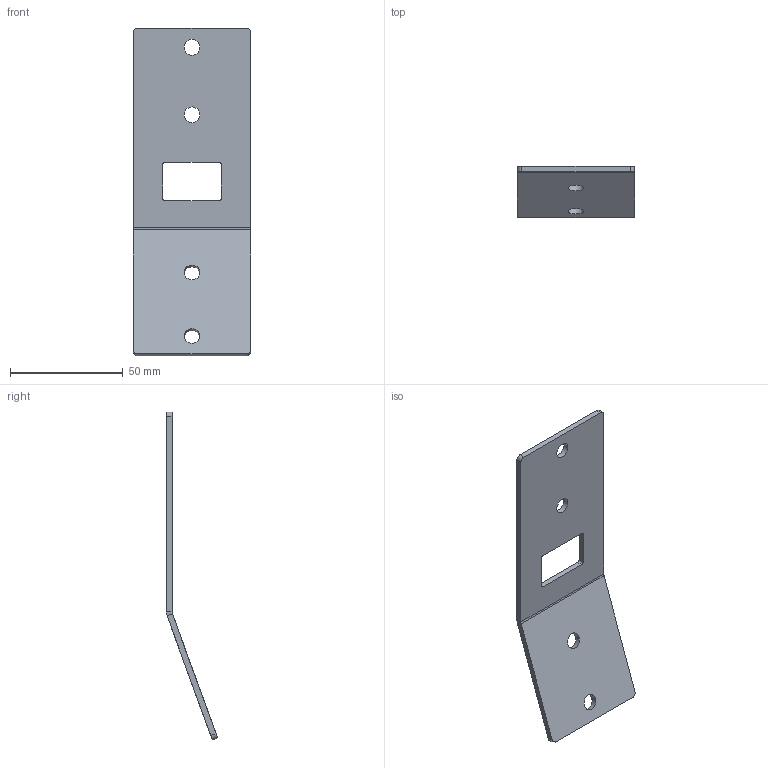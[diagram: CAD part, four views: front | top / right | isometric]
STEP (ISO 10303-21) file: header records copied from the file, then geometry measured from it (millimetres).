
FILE_DESCRIPTION(/* description */ (''),/* implementation_level */ '2;1');
FILE_NAME(/* name */ 'LB VS 20.stp',/* time_stamp */ '2024-10-17T13:47:32+02:00',/* author */ ('d.streicher'),/* organization */ (''),/* preprocessor_version */ 'ST-DEVELOPER v20',/* originating_system */ 'Autodesk Inventor 2025',/* authorisation */ '');
FILE_SCHEMA (('AUTOMOTIVE_DESIGN { 1 0 10303 214 3 1 1 }'));
Length unit declared in the file: millimetre
Products named in the file (1): LB VS nlack 20°
Bounding box: 52 x 22.7 x 145.41 mm (x, y, z)
Volume: 17814.7 mm3; surface area: 15676.5 mm2
Topology: 1 solids, 1 shells, 30 faces, 76 edges, 48 vertices
Faces by surface type: plane 16, cylinder 14
Full cylindrical faces by diameter (mm): 7 x4
Entity records: 1006 total; most frequent: DIRECTION 166, CARTESIAN_POINT 155, ORIENTED_EDGE 152, EDGE_CURVE 76, AXIS2_PLACEMENT_3D 59, LINE 48, VECTOR 48, VERTEX_POINT 48
